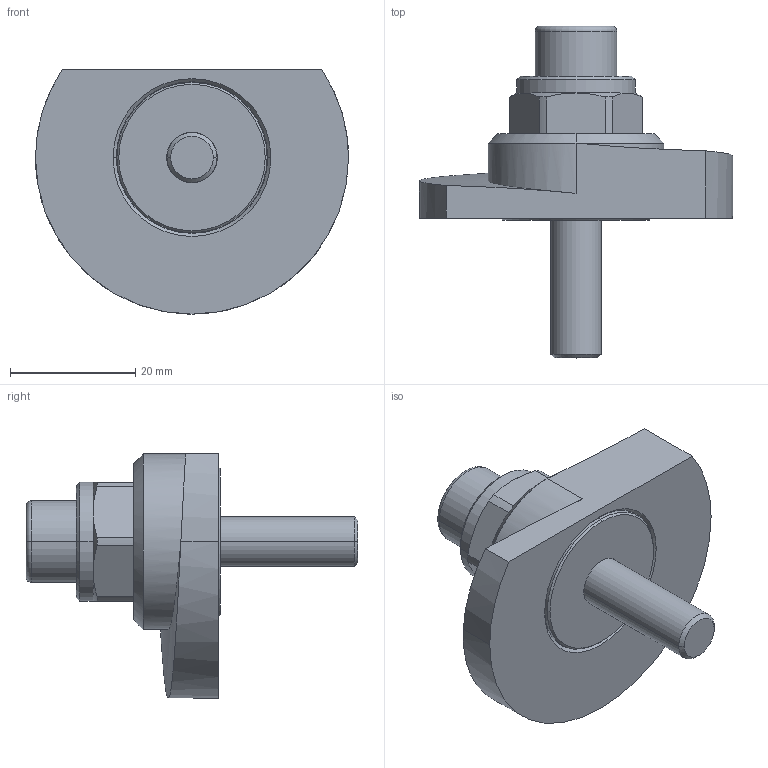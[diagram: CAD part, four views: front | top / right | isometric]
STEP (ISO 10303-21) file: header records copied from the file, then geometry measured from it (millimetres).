
FILE_DESCRIPTION (( 'STEP AP214' ), '1' );
FILE_NAME ('918.1-50-SKS-L-22.step', '2024-05-15T13:02:51', ( '' ), ( '' ), 'SwSTEP 2.0', 'SolidWorks 2022', '' );
FILE_SCHEMA (( 'AUTOMOTIVE_DESIGN' ));
Length unit declared in the file: millimetre
Products named in the file (1): 918.1-50-SKS-L-22
Bounding box: 50 x 53 x 39 mm (x, y, z)
Volume: 21207.9 mm3; surface area: 8881.5 mm2
Topology: 1 solids, 2 shells, 77 faces, 174 edges, 109 vertices
Faces by surface type: cylinder 25, plane 25, cone 22, bspline 3, torus 2
Entity records: 2537 total; most frequent: CARTESIAN_POINT 767, DIRECTION 379, ORIENTED_EDGE 348, EDGE_CURVE 174, AXIS2_PLACEMENT_3D 152, VERTEX_POINT 109, EDGE_LOOP 87, CIRCLE 77
